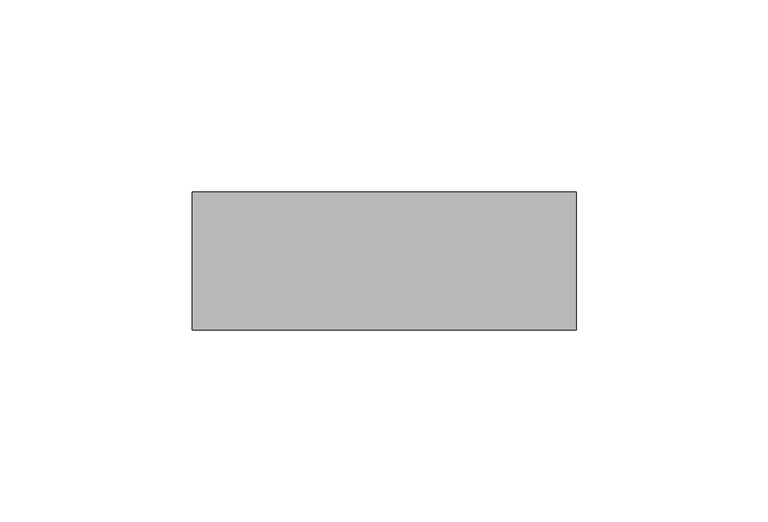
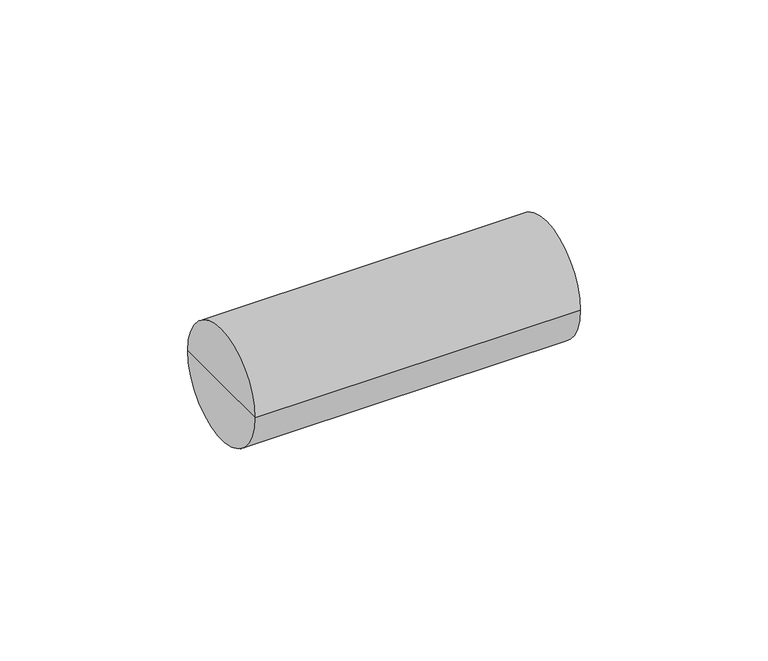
"""IFC4 building model written with IfcOpenShell, lengths in millimetres: cable carrier fitting geometry, Муфта_соед._для_труб : Муфта соед. для трубы 32мм (25шт)."""

from ifc_helpers import new_model, si_unit, frame, origin, place, context, project, spatial, circle_curve, source, transform, mapped, element, save
from ifc_brep_helpers import plane_surface, cylinder_surface, advanced_brep


def cable_carrier_fitting_5dce2548(model_context):
    return source(origin(), model_context, "Body", "AdvancedBrep", [
        advanced_brep(
        [(-50.0, -18.0, 0.0), (-50.0, 18.0, 0.0), (50.0, 18.0, 0.0), (50.0, -18.0, 0.0), (-50.0, 0.0, 0.0), (50.0, 0.0, 0.0)],
        [
            (0, 1, circle_curve(frame((-50.0, 0.0, 0.0), z_axis=(1.0, 0.0, 0.0), x_axis=(0.0, 1.0, 0.0)), 18.0)),
            (1, 2),
            (2, 3, circle_curve(frame((50.0, 0.0, 0.0), z_axis=(-1.0, 0.0, 0.0), x_axis=(0.0, 1.0, 0.0)), 18.0)),
            (3, 0),
            (1, 0, circle_curve(frame((-50.0, 0.0, 0.0), z_axis=(1.0, 0.0, 0.0), x_axis=(0.0, 1.0, 0.0)), 18.0)),
            (3, 2, circle_curve(frame((50.0, 0.0, 0.0), z_axis=(-1.0, 0.0, 0.0), x_axis=(0.0, 1.0, 0.0)), 18.0)),
            (4, 1),
            (0, 4),
            (2, 5),
            (5, 3),
        ],
        [
            cylinder_surface(frame((1975.0, 0.0, 0.0), z_axis=(-1.0, 0.0, 0.0), x_axis=(0.0, 1.0, 0.0)), 18.0),
            plane_surface(frame((-50.0, 0.0, 0.0), z_axis=(-1.0, 0.0, 0.0), x_axis=(0.0, 1.0, 0.0))),
            plane_surface(frame((50.0, 0.0, 0.0), z_axis=(1.0, 0.0, 0.0), x_axis=(0.0, 1.0, 0.0))),
        ],
        [
            (0, [[1, 2, 3, 4]]),
            (0, [[5, -4, 6, -2]]),
            (1, [[7, -1, 8]]),
            (1, [[-8, -5, -7]]),
            (2, [[-3, 9, 10]]),
            (2, [[-6, -10, -9]]),
        ],
    ),
    ])


if __name__ == "__main__":
    model = new_model("IFC4")
    model_context = context("Model", 3, world=origin())
    ifc_project = project(units=[si_unit("LENGTHUNIT", "METRE", prefix="MILLI")], contexts=[model_context])
    site = spatial("IfcSite", under=ifc_project)
    building = spatial("IfcBuilding", under=site)
    placement = place(None, origin())
    cable_carrier_fitting_shape = cable_carrier_fitting_5dce2548(model_context)
    element("IfcCableCarrierFitting", 1, ObjectType="Муфта_соед._для_труб : Муфта соед. для трубы 32мм (25шт)", at=placement, inside=building, context=model_context, shape_type="MappedRepresentation", body=[
        mapped(cable_carrier_fitting_shape, transform((0.0, 0.0, 0.0), x_axis=(1.0, 0.0, 0.0), y_axis=(0.0, 1.0, 0.0), z_axis=(0.0, 0.0, 1.0))),
    ])
    save(model, "model.ifc")
